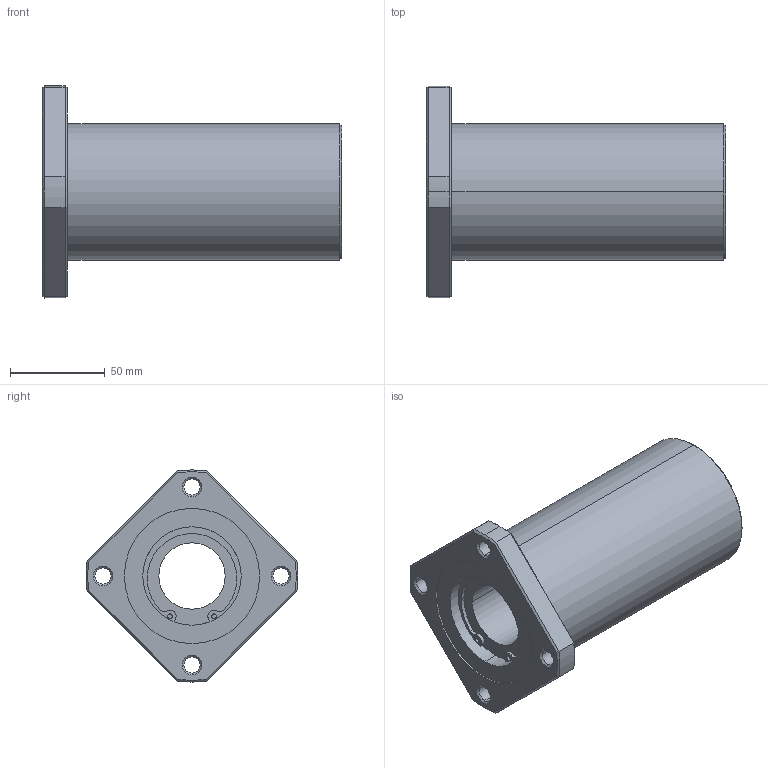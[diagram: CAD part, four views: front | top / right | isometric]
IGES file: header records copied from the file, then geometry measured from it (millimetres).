
Start section: 3D InterOp IGES (Version 21 0 1), Spatial Corp. Copyright (c) 1999-2007.
Global section: file name: LCF-35AVUU.igs; native system: Spatial Corp.; preprocessor: 3D InterOp GENERIC/IGES 3.0; author: Noname; organization: Noname; date: 20220517.163028; units: millimetre
Bounding box: 158 x 111.86 x 112 mm (x, y, z)
Surface area: 69609 mm2 (no closed solid volume)
Topology: 0 solids, 0 shells, 107 faces, 528 edges, 528 vertices
Faces by surface type: revolution 79, extrusion 28
